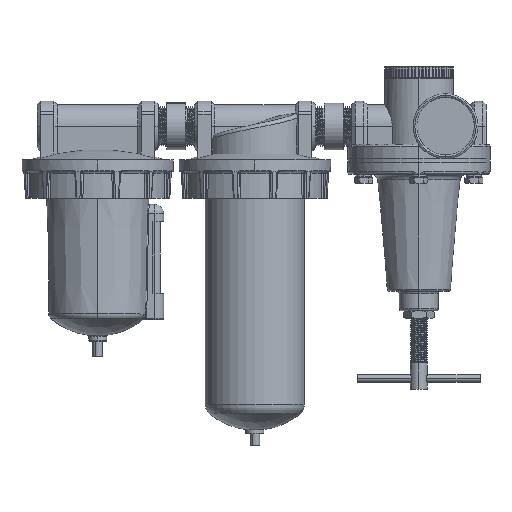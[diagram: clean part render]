
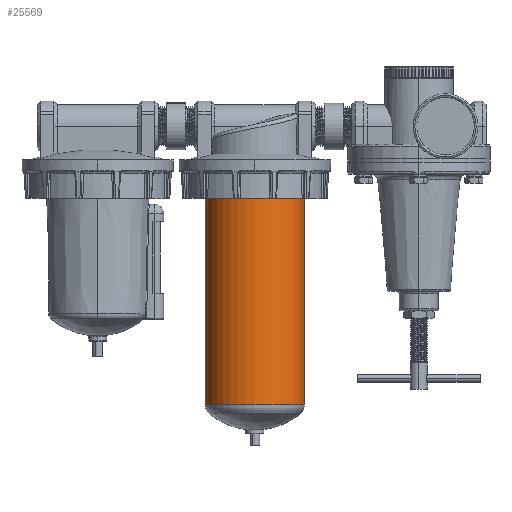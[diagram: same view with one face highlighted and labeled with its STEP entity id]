
A CAD part, top view. The second image highlights one B-rep face of the part: STEP entity #25569.
In plain terms, the highlighted cylindrical face has radius 41.25 mm (diameter 82.5 mm), a partial arc.
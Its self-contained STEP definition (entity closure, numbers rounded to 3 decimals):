
#1740 = EDGE_LOOP ( 'NONE', ( #11568, #39217, #32452, #60029 ) ) ;
#6768 = CARTESIAN_POINT ( 'NONE',  ( 41.25, 0., 0. ) ) ;
#7122 = VERTEX_POINT ( 'NONE', #33019 ) ;
#8641 = LINE ( 'NONE', #50149, #44240 ) ;
#10447 = CARTESIAN_POINT ( 'NONE',  ( 0., 0., 0. ) ) ;
#11568 = ORIENTED_EDGE ( 'NONE', *, *, #28146, .T. ) ;
#11677 = VERTEX_POINT ( 'NONE', #21948 ) ;
#12083 = EDGE_CURVE ( 'NONE', #7122, #13358, #50322, .T. ) ;
#13358 = VERTEX_POINT ( 'NONE', #57295 ) ;
#14708 = DIRECTION ( 'NONE',  ( -1., 0., 0. ) ) ;
#17855 = FACE_OUTER_BOUND ( 'NONE', #1740, .T. ) ;
#21372 = VECTOR ( 'NONE', #60305, 1000. ) ;
#21948 = CARTESIAN_POINT ( 'NONE',  ( -41.25, -171.82, 0. ) ) ;
#22419 = CYLINDRICAL_SURFACE ( 'NONE', #26303, 41.25 ) ;
#22906 = LINE ( 'NONE', #6768, #21372 ) ;
#24104 = AXIS2_PLACEMENT_3D ( 'NONE', #44120, #24837, #14708 ) ;
#24360 = AXIS2_PLACEMENT_3D ( 'NONE', #61527, #56919, #57347 ) ;
#24631 = DIRECTION ( 'NONE',  ( -1., 0., 0. ) ) ;
#24837 = DIRECTION ( 'NONE',  ( 0., 1., 0. ) ) ;
#25569 = ADVANCED_FACE ( 'NONE', ( #17855 ), #22419, .T. ) ;
#26303 = AXIS2_PLACEMENT_3D ( 'NONE', #10447, #39044, #24631 ) ;
#28146 = EDGE_CURVE ( 'NONE', #11677, #47939, #44300, .T. ) ;
#32452 = ORIENTED_EDGE ( 'NONE', *, *, #12083, .F. ) ;
#33019 = CARTESIAN_POINT ( 'NONE',  ( -41.25, 0., 0. ) ) ;
#36385 = DIRECTION ( 'NONE',  ( 0., 1., 0. ) ) ;
#39044 = DIRECTION ( 'NONE',  ( 0., 1., 0. ) ) ;
#39217 = ORIENTED_EDGE ( 'NONE', *, *, #43777, .T. ) ;
#42076 = EDGE_CURVE ( 'NONE', #11677, #7122, #8641, .T. ) ;
#43777 = EDGE_CURVE ( 'NONE', #47939, #13358, #22906, .T. ) ;
#44120 = CARTESIAN_POINT ( 'NONE',  ( 0., 0., 0. ) ) ;
#44240 = VECTOR ( 'NONE', #36385, 1000. ) ;
#44300 = CIRCLE ( 'NONE', #24360, 41.25 ) ;
#47939 = VERTEX_POINT ( 'NONE', #55196 ) ;
#50149 = CARTESIAN_POINT ( 'NONE',  ( -41.25, 0., 0. ) ) ;
#50322 = CIRCLE ( 'NONE', #24104, 41.25 ) ;
#55196 = CARTESIAN_POINT ( 'NONE',  ( 41.25, -171.82, 0. ) ) ;
#56919 = DIRECTION ( 'NONE',  ( 0., 1., 0. ) ) ;
#57295 = CARTESIAN_POINT ( 'NONE',  ( 41.25, 0., 0. ) ) ;
#57347 = DIRECTION ( 'NONE',  ( -1., 0., 0. ) ) ;
#60029 = ORIENTED_EDGE ( 'NONE', *, *, #42076, .F. ) ;
#60305 = DIRECTION ( 'NONE',  ( 0., 1., 0. ) ) ;
#61527 = CARTESIAN_POINT ( 'NONE',  ( 0., -171.82, 0. ) ) ;
